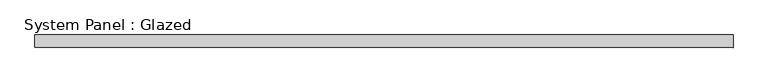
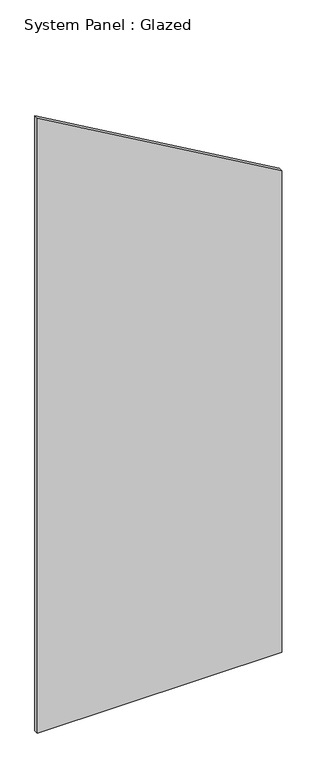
"""IFC4 building model written with IfcOpenShell, lengths in millimetres: plate geometry, System Panel : Glazed."""

from ifc_helpers import new_model, si_unit, frame, origin, place, context, project, spatial, polyline, outline, extrude, source, transform, mapped, element, save


def system_panel_glazed_f33d80e9(model_context):
    return source(origin(), model_context, "Body", "SweptSolid", [
        extrude(outline(polyline([(0.0, -694.4400387), (0.0, 694.4400387), (2894.7381952, 694.4400387), (3696.6084818, -694.4400387), (0.0, -694.4400387)])), frame((0.0, -49.5, 0.0), z_axis=(0.0, 1.0, 0.0), x_axis=(0.0, 0.0, 1.0)), (0.0, 0.0, 1.0), 25.0),
    ])


if __name__ == "__main__":
    model = new_model("IFC4")
    model_context = context("Model", 3, world=origin())
    ifc_project = project(units=[si_unit("LENGTHUNIT", "METRE", prefix="MILLI")], contexts=[model_context])
    site = spatial("IfcSite", under=ifc_project)
    building = spatial("IfcBuilding", under=site)
    placement = place(None, origin())
    system_panel_glazed_shape = system_panel_glazed_f33d80e9(model_context)
    element("IfcPlate", 1, ObjectType="System Panel : Glazed", at=placement, inside=building, context=model_context, shape_type="MappedRepresentation", body=[
        mapped(system_panel_glazed_shape, transform((0.0, 0.0, 0.0), x_axis=(1.0, 0.0, 0.0), y_axis=(0.0, 1.0, 0.0), z_axis=(0.0, 0.0, 1.0))),
    ])
    save(model, "model.ifc")
